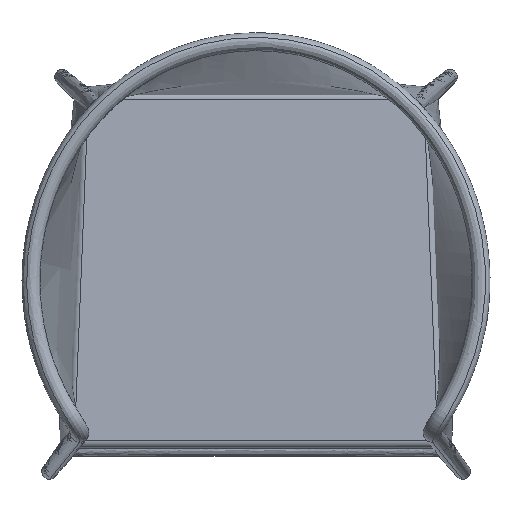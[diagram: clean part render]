
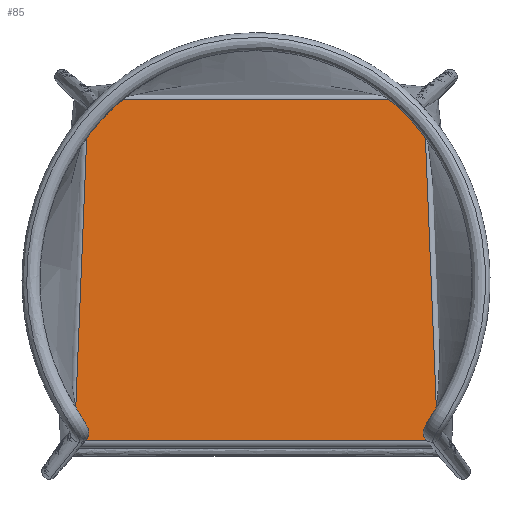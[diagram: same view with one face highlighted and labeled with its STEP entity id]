
A CAD part, top view. The second image highlights one B-rep face of the part: STEP entity #85.
In plain terms, the highlighted planar face has unit normal (0, 0.051, 0.999).
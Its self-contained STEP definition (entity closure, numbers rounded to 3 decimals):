
#85=ADVANCED_FACE('',(#148),#1041,.T.);
#148=FACE_OUTER_BOUND('',#211,.T.);
#211=EDGE_LOOP('',(#474,#475,#476,#477));
#474=ORIENTED_EDGE('',*,*,#694,.T.);
#475=ORIENTED_EDGE('',*,*,#721,.T.);
#476=ORIENTED_EDGE('',*,*,#695,.T.);
#477=ORIENTED_EDGE('',*,*,#703,.T.);
#694=EDGE_CURVE('',#1014,#1015,#900,.T.);
#695=EDGE_CURVE('',#1016,#1017,#901,.T.);
#703=EDGE_CURVE('',#1017,#1014,#805,.T.);
#721=EDGE_CURVE('',#1015,#1016,#823,.T.);
#805=(
BOUNDED_CURVE()
B_SPLINE_CURVE(1,(#66603,#66604),.UNSPECIFIED.,.F.,.F.)
B_SPLINE_CURVE_WITH_KNOTS((2,2),(10.413,480.594),
 .UNSPECIFIED.)
CURVE()
GEOMETRIC_REPRESENTATION_ITEM()
RATIONAL_B_SPLINE_CURVE((1.,1.))
REPRESENTATION_ITEM('')
);
#823=(
BOUNDED_CURVE()
B_SPLINE_CURVE(1,(#66654,#66655),.UNSPECIFIED.,.F.,.F.)
B_SPLINE_CURVE_WITH_KNOTS((2,2),(9.603,479.784),
 .UNSPECIFIED.)
CURVE()
GEOMETRIC_REPRESENTATION_ITEM()
RATIONAL_B_SPLINE_CURVE((1.,1.))
REPRESENTATION_ITEM('')
);
#900=B_SPLINE_CURVE_WITH_KNOTS('',1,(#66580,#66581),.UNSPECIFIED.,.F.,.F.,
(2,2),(9.603,471.246),.UNSPECIFIED.);
#901=B_SPLINE_CURVE_WITH_KNOTS('',1,(#66582,#66583),.UNSPECIFIED.,.F.,.F.,
(2,2),(10.413,510.105),.UNSPECIFIED.);
#1014=VERTEX_POINT('',#66544);
#1015=VERTEX_POINT('',#66545);
#1016=VERTEX_POINT('',#66546);
#1017=VERTEX_POINT('',#66547);
#1041=PLANE('',#1118);
#1118=AXIS2_PLACEMENT_3D('',#66271,#1133,$);
#1133=DIRECTION('',(0.,0.051,0.999));
#66271=CARTESIAN_POINT('',(2821.748,397.128,453.067));
#66544=CARTESIAN_POINT('',(3377.894,937.442,425.45));
#66545=CARTESIAN_POINT('',(2916.251,937.442,425.45));
#66546=CARTESIAN_POINT('',(2897.226,468.259,449.432));
#66547=CARTESIAN_POINT('',(3396.918,468.259,449.432));
#66580=CARTESIAN_POINT('',(3377.894,937.442,425.45));
#66581=CARTESIAN_POINT('',(2916.251,937.442,425.45));
#66582=CARTESIAN_POINT('',(2897.226,468.259,449.432));
#66583=CARTESIAN_POINT('',(3396.918,468.259,449.432));
#66603=CARTESIAN_POINT('',(3396.918,468.259,449.432));
#66604=CARTESIAN_POINT('',(3377.894,937.442,425.45));
#66654=CARTESIAN_POINT('',(2916.251,937.442,425.45));
#66655=CARTESIAN_POINT('',(2897.226,468.259,449.432));
